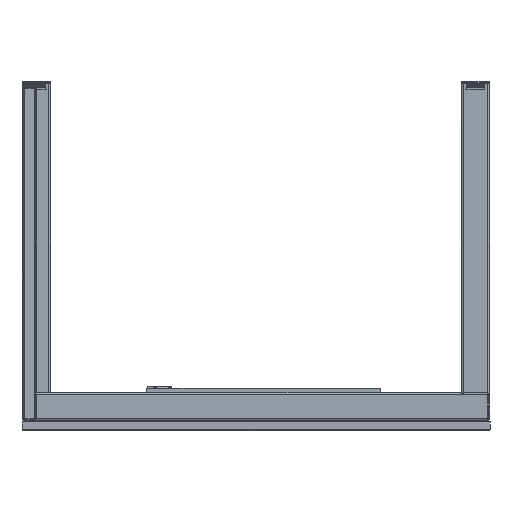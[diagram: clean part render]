
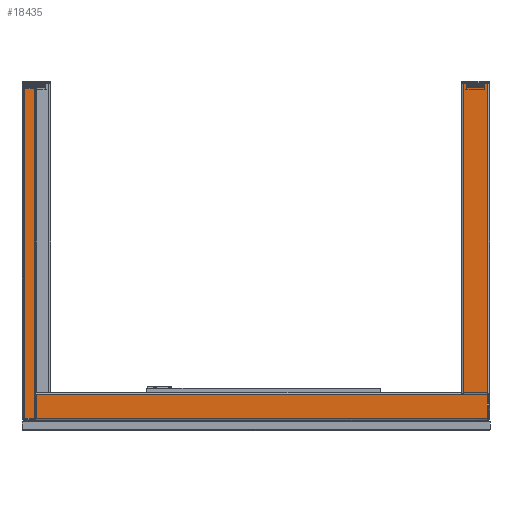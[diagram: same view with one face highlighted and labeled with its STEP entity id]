
A CAD part, front view. The second image highlights one B-rep face of the part: STEP entity #18435.
In plain terms, the highlighted planar face has unit normal (0, -1, 0) as drawn and (-1, 0, 0) by its records, which use the part's own axes.
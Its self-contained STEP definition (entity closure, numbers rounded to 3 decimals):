
#2847 = CARTESIAN_POINT ( 'NONE',  ( -20., -25., 466. ) ) ;
#4156 = CARTESIAN_POINT ( 'NONE',  ( -20., -758.111, -441. ) ) ;
#8436 = LINE ( 'NONE', #45485, #39543 ) ;
#13753 = VECTOR ( 'NONE', #70170, 1000. ) ;
#14025 = CARTESIAN_POINT ( 'NONE',  ( -20., -686., 491. ) ) ;
#15517 = CARTESIAN_POINT ( 'NONE',  ( -20., 25., -491. ) ) ;
#15894 = ORIENTED_EDGE ( 'NONE', *, *, #53752, .T. ) ;
#18435 = ADVANCED_FACE ( 'NONE', ( #50461 ), #88114, .F. ) ;
#19578 = VECTOR ( 'NONE', #30443, 1000. ) ;
#19589 = EDGE_CURVE ( 'NONE', #105984, #20041, #113656, .T. ) ;
#19692 = EDGE_CURVE ( 'NONE', #46636, #36340, #117231, .T. ) ;
#20041 = VERTEX_POINT ( 'NONE', #68514 ) ;
#20063 = EDGE_CURVE ( 'NONE', #20041, #115872, #24195, .T. ) ;
#20789 = EDGE_CURVE ( 'NONE', #117286, #37164, #67493, .T. ) ;
#22095 = DIRECTION ( 'NONE',  ( 0., 1., 0. ) ) ;
#23558 = CARTESIAN_POINT ( 'NONE',  ( -20., 25., -491. ) ) ;
#24195 = LINE ( 'NONE', #4156, #81795 ) ;
#27798 = DIRECTION ( 'NONE',  ( 0., 0., -1. ) ) ;
#29320 = ORIENTED_EDGE ( 'NONE', *, *, #20063, .T. ) ;
#30443 = DIRECTION ( 'NONE',  ( 0., 0., 1. ) ) ;
#31245 = CARTESIAN_POINT ( 'NONE',  ( -20., -686., 471. ) ) ;
#32888 = LINE ( 'NONE', #98443, #117597 ) ;
#32914 = ORIENTED_EDGE ( 'NONE', *, *, #88016, .F. ) ;
#33896 = CARTESIAN_POINT ( 'NONE',  ( -20., -25., -491. ) ) ;
#35351 = VECTOR ( 'NONE', #104542, 1000. ) ;
#36340 = VERTEX_POINT ( 'NONE', #47286 ) ;
#37164 = VERTEX_POINT ( 'NONE', #23558 ) ;
#38301 = VECTOR ( 'NONE', #22095, 1000. ) ;
#39543 = VECTOR ( 'NONE', #82508, 1000. ) ;
#42640 = EDGE_CURVE ( 'NONE', #86215, #115872, #84861, .T. ) ;
#45485 = CARTESIAN_POINT ( 'NONE',  ( -20., -758.111, -491. ) ) ;
#46636 = VERTEX_POINT ( 'NONE', #71276 ) ;
#47286 = CARTESIAN_POINT ( 'NONE',  ( -20., 25., 491. ) ) ;
#50461 = FACE_OUTER_BOUND ( 'NONE', #113944, .T. ) ;
#52546 = ORIENTED_EDGE ( 'NONE', *, *, #42640, .F. ) ;
#53752 = EDGE_CURVE ( 'NONE', #36340, #117286, #119489, .T. ) ;
#56159 = AXIS2_PLACEMENT_3D ( 'NONE', #89297, #60749, #68047 ) ;
#59726 = CARTESIAN_POINT ( 'NONE',  ( -20., -686., 471. ) ) ;
#60749 = DIRECTION ( 'NONE',  ( 1., 0., 0. ) ) ;
#61365 = DIRECTION ( 'NONE',  ( 0., 1., 0. ) ) ;
#62973 = CARTESIAN_POINT ( 'NONE',  ( -20., 25., 471. ) ) ;
#67493 = LINE ( 'NONE', #94841, #35351 ) ;
#68047 = DIRECTION ( 'NONE',  ( 0., 1., 0. ) ) ;
#68514 = CARTESIAN_POINT ( 'NONE',  ( -20., -686., -441. ) ) ;
#70170 = DIRECTION ( 'NONE',  ( 0., -1., 0. ) ) ;
#71276 = CARTESIAN_POINT ( 'NONE',  ( -20., -686., 491. ) ) ;
#71945 = ORIENTED_EDGE ( 'NONE', *, *, #91428, .T. ) ;
#73220 = EDGE_CURVE ( 'NONE', #105984, #85961, #8436, .T. ) ;
#75729 = DIRECTION ( 'NONE',  ( 0., 0., -1. ) ) ;
#78426 = DIRECTION ( 'NONE',  ( 0., 0., 1. ) ) ;
#81795 = VECTOR ( 'NONE', #87982, 1000. ) ;
#82508 = DIRECTION ( 'NONE',  ( 0., 1., 0. ) ) ;
#84861 = LINE ( 'NONE', #2847, #98483 ) ;
#85961 = VERTEX_POINT ( 'NONE', #33896 ) ;
#86215 = VERTEX_POINT ( 'NONE', #113350 ) ;
#87411 = EDGE_CURVE ( 'NONE', #90284, #46636, #32888, .T. ) ;
#87982 = DIRECTION ( 'NONE',  ( 0., 1., 0. ) ) ;
#88016 = EDGE_CURVE ( 'NONE', #90284, #86215, #105292, .T. ) ;
#88114 = PLANE ( 'NONE',  #56159 ) ;
#89297 = CARTESIAN_POINT ( 'NONE',  ( -20., 25., 466. ) ) ;
#90284 = VERTEX_POINT ( 'NONE', #31245 ) ;
#91428 = EDGE_CURVE ( 'NONE', #37164, #85961, #98718, .T. ) ;
#94841 = CARTESIAN_POINT ( 'NONE',  ( -20., 25., 466. ) ) ;
#94851 = VECTOR ( 'NONE', #27798, 1000. ) ;
#95226 = CARTESIAN_POINT ( 'NONE',  ( -20., -686., -491. ) ) ;
#95404 = CARTESIAN_POINT ( 'NONE',  ( -20., -686., -441. ) ) ;
#98443 = CARTESIAN_POINT ( 'NONE',  ( -20., -686., 491. ) ) ;
#98483 = VECTOR ( 'NONE', #75729, 1000. ) ;
#98718 = LINE ( 'NONE', #15517, #13753 ) ;
#104211 = ORIENTED_EDGE ( 'NONE', *, *, #73220, .F. ) ;
#104542 = DIRECTION ( 'NONE',  ( 0., 0., -1. ) ) ;
#105292 = LINE ( 'NONE', #59726, #38301 ) ;
#105357 = ORIENTED_EDGE ( 'NONE', *, *, #87411, .T. ) ;
#105984 = VERTEX_POINT ( 'NONE', #95226 ) ;
#106263 = ORIENTED_EDGE ( 'NONE', *, *, #19692, .T. ) ;
#110358 = ORIENTED_EDGE ( 'NONE', *, *, #19589, .T. ) ;
#111011 = ORIENTED_EDGE ( 'NONE', *, *, #20789, .T. ) ;
#111611 = CARTESIAN_POINT ( 'NONE',  ( -20., 25., 466. ) ) ;
#112767 = VECTOR ( 'NONE', #61365, 1000. ) ;
#113350 = CARTESIAN_POINT ( 'NONE',  ( -20., -25., 471. ) ) ;
#113656 = LINE ( 'NONE', #95404, #19578 ) ;
#113944 = EDGE_LOOP ( 'NONE', ( #106263, #15894, #111011, #71945, #104211, #110358, #29320, #52546, #32914, #105357 ) ) ;
#115872 = VERTEX_POINT ( 'NONE', #117622 ) ;
#117231 = LINE ( 'NONE', #14025, #112767 ) ;
#117286 = VERTEX_POINT ( 'NONE', #62973 ) ;
#117597 = VECTOR ( 'NONE', #78426, 1000. ) ;
#117622 = CARTESIAN_POINT ( 'NONE',  ( -20., -25., -441. ) ) ;
#119489 = LINE ( 'NONE', #111611, #94851 ) ;
